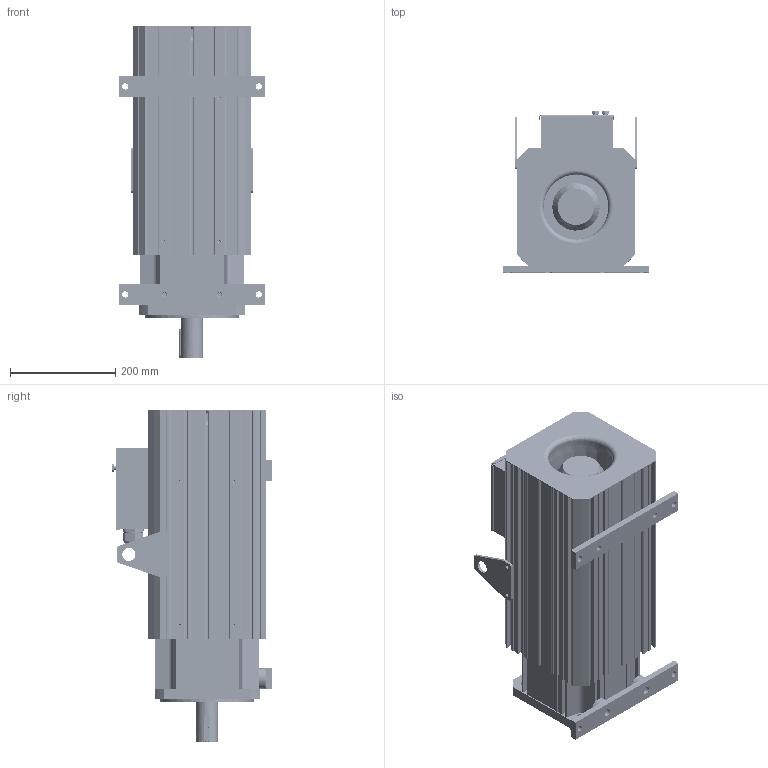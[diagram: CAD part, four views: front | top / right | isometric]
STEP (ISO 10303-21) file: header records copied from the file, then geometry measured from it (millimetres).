
FILE_DESCRIPTION (( 'STEP AP203' ), '1' );
FILE_NAME ('ZE1808.STEP', '2024-10-12T01:58:27', ( 'MicroSoft' ), ( 'MicroSoft' ), 'SwSTEP 2.0', 'SolidWorks 2020', '' );
FILE_SCHEMA (( 'CONFIG_CONTROL_DESIGN' ));
Length unit declared in the file: millimetre
Products named in the file (40): 18 萇儂諉盄碟裔; Z18-01-03(18极胜后法兰)_常规款; Z18-01-25(18机壳护线圈); M32X1.5滅阨諉芛; Z18-01-01(18儂褲)_1808; Z18-01-19(絳瑞啣D)_1808; Z18-01-20(18盓殤菜輸); GB╱T 276-2013[深沟球轴承[60000]6306]; 18萇儂霧齪; M32X1.5滅阨諉芛 3; Z18-01-21(18綴結啣); 90僅濮揤傷赽; PG 13.5滅阨諉芛 3; PG 13.5滅阨諉芛 1; Z18-01-14(萇儂菁褐盓殤-1); PG 13.5滅阨諉芛 2; Z18-01-24(18諉盄碟); hex nuts, style 1-grades ab gb_GB_FASTENER_NUT_SNAB1 M8-N; Z18-01-02(18前法兰); Z18-01-09(粣創嶺裔)_都寞; Z18-01-15(萇儂菁褐盓殤-2); Z18-01-16(絳瑞啣A)_1808; Z18-01-04A(18锥轴全系列)半开放键槽_1808; 傷赽齬嘐隅え; 裂嫉; 傷赽齬; M32X1.5滅阨諉芛 2; Z航插15芯（公头电机端）28 保护套; Z18-01-23(18唅曹裔啣); Z18-01-22(18瑞圮假蚾啣); 18风扇-175FLW-3 380V（3080103010006）; ZE1808; Z18-01-18(絳瑞啣C)_1808; Z18-01-17(絳瑞啣B)_1808; 18す瑩ㄗ12-8-56ㄘ; hex head bolts-full thread grade c gb_GB_FASTENER_BOLT_HHBFTC M8X30-N; 唅曹晤鎢ん-蛌赽; Z航插15芯（公头电机端）28; M32X1.5滅阨諉芛 1; PG 13.5滅阨諉芛
Assembly tree (49 placements, depth 3):
  ZE1808
    Z18-01-01(18儂褲)_1808
    Z18-01-02(18前法兰)
    Z18-01-03(18极胜后法兰)_常规款
    Z18-01-04A(18锥轴全系列)半开放键槽_1808
    Z18-01-14(萇儂菁褐盓殤-1)
    Z18-01-15(萇儂菁褐盓殤-2)
    Z18-01-20(18盓殤菜輸)  x2
    Z18-01-21(18綴結啣)
    Z18-01-22(18瑞圮假蚾啣)
    GB╱T 276-2013[深沟球轴承[60000]6306]
    18す瑩ㄗ12-8-56ㄘ
    Z18-01-24(18諉盄碟)
    18风扇-175FLW-3 380V（3080103010006）
    18萇儂霧齪
    Z18-01-23(18唅曹裔啣)
    Z18-01-25(18机壳护线圈)
    Z18-01-16(絳瑞啣A)_1808
    Z18-01-17(絳瑞啣B)_1808
    Z18-01-18(絳瑞啣C)_1808  x3
    Z18-01-19(絳瑞啣D)_1808  x3
    唅曹晤鎢ん-蛌赽
    傷赽齬嘐隅え
    傷赽齬
    hex head bolts-full thread grade c gb_GB_FASTENER_BOLT_HHBFTC M8X30-N  x2
    hex nuts, style 1-grades ab gb_GB_FASTENER_NUT_SNAB1 M8-N  x2
    90僅濮揤傷赽  x3
    18 萇儂諉盄碟裔
    裂嫉  x2
    Z航插15芯（公头电机端）28
    Z航插15芯（公头电机端）28 保护套
    PG 13.5滅阨諉芛
      PG 13.5滅阨諉芛 2
      PG 13.5滅阨諉芛 3
      PG 13.5滅阨諉芛 1
    M32X1.5滅阨諉芛
      M32X1.5滅阨諉芛 2
      M32X1.5滅阨諉芛 3
      M32X1.5滅阨諉芛 1
    Z18-01-09(粣創嶺裔)_都寞
Bounding box: 277 x 305.8 x 632 mm (x, y, z)
Volume: 9798450.4 mm3; surface area: 3162128.6 mm2
Topology: 61 solids, 61 shells, 3853 faces, 10560 edges, 6798 vertices
Faces by surface type: cylinder 1708, plane 1520, cone 295, bspline 147, sphere 109, torus 74
Entity records: 126566 total; most frequent: CARTESIAN_POINT 46100, ORIENTED_EDGE 16420, DIRECTION 15506, EDGE_CURVE 8210, AXIS2_PLACEMENT_3D 5733, VERTEX_POINT 5340, LINE 4040, VECTOR 4040
